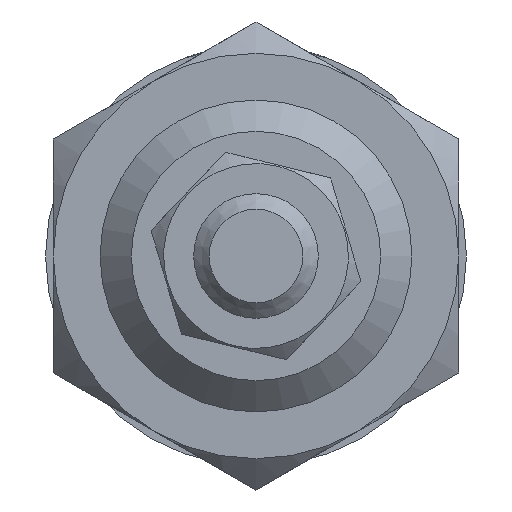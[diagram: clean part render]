
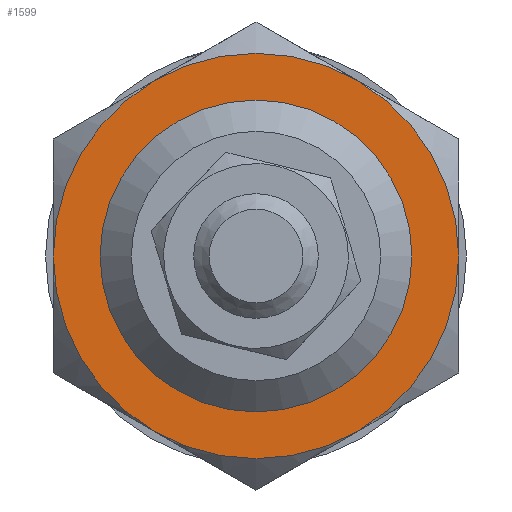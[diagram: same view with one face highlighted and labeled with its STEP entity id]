
A CAD part, front view. The second image highlights one B-rep face of the part: STEP entity #1599.
In plain terms, the highlighted planar face has unit normal (0, -1, 0).
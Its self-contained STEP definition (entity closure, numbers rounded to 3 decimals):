
#173=PLANE('',#1748);
#225=CIRCLE('',#1749,9.688);
#226=CIRCLE('',#1750,13.);
#227=CIRCLE('',#1751,13.);
#228=CIRCLE('',#1752,13.);
#229=CIRCLE('',#1753,13.);
#230=CIRCLE('',#1754,13.);
#231=CIRCLE('',#1755,13.);
#392=ORIENTED_EDGE('',*,*,#582,.T.);
#393=ORIENTED_EDGE('',*,*,#583,.F.);
#394=ORIENTED_EDGE('',*,*,#584,.F.);
#395=ORIENTED_EDGE('',*,*,#585,.F.);
#396=ORIENTED_EDGE('',*,*,#586,.F.);
#397=ORIENTED_EDGE('',*,*,#587,.F.);
#398=ORIENTED_EDGE('',*,*,#588,.F.);
#582=EDGE_CURVE('',#693,#693,#225,.T.);
#583=EDGE_CURVE('',#675,#679,#226,.T.);
#584=EDGE_CURVE('',#671,#675,#227,.T.);
#585=EDGE_CURVE('',#691,#671,#228,.T.);
#586=EDGE_CURVE('',#687,#691,#229,.T.);
#587=EDGE_CURVE('',#683,#687,#230,.T.);
#588=EDGE_CURVE('',#679,#683,#231,.T.);
#671=VERTEX_POINT('',#2340);
#675=VERTEX_POINT('',#2358);
#679=VERTEX_POINT('',#2375);
#683=VERTEX_POINT('',#2393);
#687=VERTEX_POINT('',#2411);
#691=VERTEX_POINT('',#2427);
#693=VERTEX_POINT('',#2438);
#826=EDGE_LOOP('',(#392));
#827=EDGE_LOOP('',(#393,#394,#395,#396,#397,#398));
#950=FACE_BOUND('',#826,.T.);
#951=FACE_BOUND('',#827,.T.);
#1599=ADVANCED_FACE('',(#950,#951),#173,.F.);
#1748=AXIS2_PLACEMENT_3D('',#2436,#2016,#2017);
#1749=AXIS2_PLACEMENT_3D('',#2437,#2018,#2019);
#1750=AXIS2_PLACEMENT_3D('',#2439,#2020,#2021);
#1751=AXIS2_PLACEMENT_3D('',#2440,#2022,#2023);
#1752=AXIS2_PLACEMENT_3D('',#2441,#2024,#2025);
#1753=AXIS2_PLACEMENT_3D('',#2442,#2026,#2027);
#1754=AXIS2_PLACEMENT_3D('',#2443,#2028,#2029);
#1755=AXIS2_PLACEMENT_3D('',#2444,#2030,#2031);
#2016=DIRECTION('',(0.,1.,0.));
#2017=DIRECTION('',(0.,0.,1.));
#2018=DIRECTION('',(0.,1.,0.));
#2019=DIRECTION('',(0.,0.,1.));
#2020=DIRECTION('',(0.,1.,0.));
#2021=DIRECTION('',(0.,0.,1.));
#2022=DIRECTION('',(0.,1.,0.));
#2023=DIRECTION('',(0.,0.,1.));
#2024=DIRECTION('',(0.,1.,0.));
#2025=DIRECTION('',(0.,0.,1.));
#2026=DIRECTION('',(0.,1.,0.));
#2027=DIRECTION('',(0.,0.,1.));
#2028=DIRECTION('',(0.,1.,0.));
#2029=DIRECTION('',(0.,0.,1.));
#2030=DIRECTION('',(0.,1.,0.));
#2031=DIRECTION('',(0.,0.,1.));
#2340=CARTESIAN_POINT('',(-6.5,-8.,11.258));
#2358=CARTESIAN_POINT('',(6.5,-8.,11.258));
#2375=CARTESIAN_POINT('',(13.,-8.,0.));
#2393=CARTESIAN_POINT('',(6.5,-8.,-11.258));
#2411=CARTESIAN_POINT('',(-6.5,-8.,-11.258));
#2427=CARTESIAN_POINT('',(-13.,-8.,0.));
#2436=CARTESIAN_POINT('',(0.,-8.,0.));
#2437=CARTESIAN_POINT('',(0.,-8.,0.));
#2438=CARTESIAN_POINT('',(0.,-8.,9.688));
#2439=CARTESIAN_POINT('',(0.,-8.,0.));
#2440=CARTESIAN_POINT('',(0.,-8.,0.));
#2441=CARTESIAN_POINT('',(0.,-8.,0.));
#2442=CARTESIAN_POINT('',(0.,-8.,0.));
#2443=CARTESIAN_POINT('',(0.,-8.,0.));
#2444=CARTESIAN_POINT('',(0.,-8.,0.));
